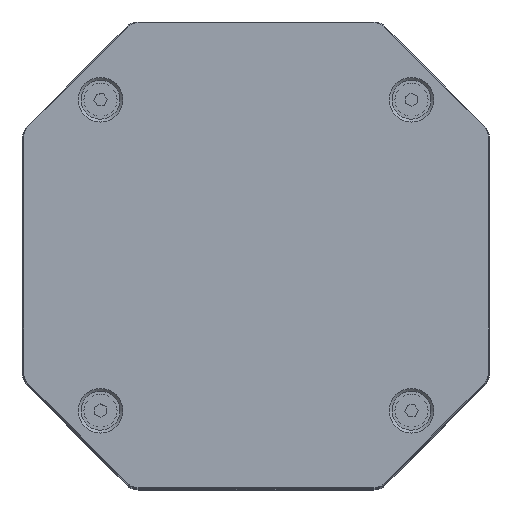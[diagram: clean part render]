
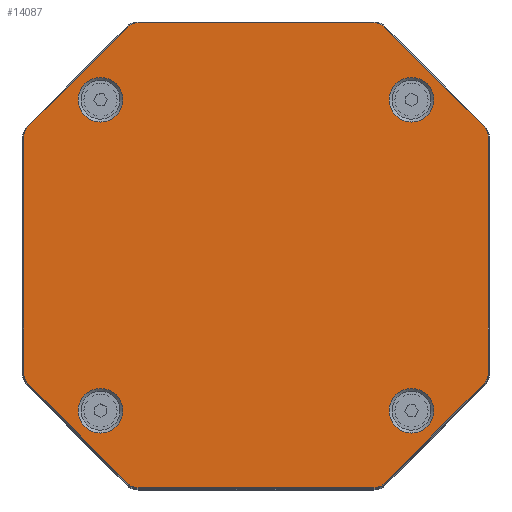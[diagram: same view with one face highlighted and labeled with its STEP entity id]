
A CAD part, top view. The second image highlights one B-rep face of the part: STEP entity #14087.
In plain terms, the highlighted planar face has unit normal (0, 0, 1) as drawn and (0, 1, 0) by its records, which use the part's own axes.
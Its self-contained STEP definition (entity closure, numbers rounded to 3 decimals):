
#858=FACE_BOUND('',#2424,.T.);
#859=FACE_BOUND('',#2425,.T.);
#860=FACE_BOUND('',#2426,.T.);
#861=FACE_BOUND('',#2427,.T.);
#1581=FACE_OUTER_BOUND('',#2423,.T.);
#2423=EDGE_LOOP('',(#12942,#12943,#12944,#12945,#12946,#12947,#12948,#12949,
#12950,#12951,#12952,#12953,#12954,#12955,#12956,#12957));
#2424=EDGE_LOOP('',(#12958));
#2425=EDGE_LOOP('',(#12959));
#2426=EDGE_LOOP('',(#12960));
#2427=EDGE_LOOP('',(#12961));
#3574=LINE('',#25526,#4760);
#3579=LINE('',#25539,#4765);
#3582=LINE('',#25550,#4768);
#3587=LINE('',#25563,#4773);
#3590=LINE('',#25573,#4776);
#3594=LINE('',#25582,#4780);
#3597=LINE('',#25590,#4783);
#3600=LINE('',#25598,#4786);
#4760=VECTOR('',#20061,10.);
#4765=VECTOR('',#20074,10.);
#4768=VECTOR('',#20085,10.);
#4773=VECTOR('',#20098,10.);
#4776=VECTOR('',#20109,10.);
#4780=VECTOR('',#20119,10.);
#4783=VECTOR('',#20128,10.);
#4786=VECTOR('',#20137,10.);
#5594=CIRCLE('',#15881,3.8);
#5596=CIRCLE('',#15885,3.8);
#5598=CIRCLE('',#15889,3.8);
#5600=CIRCLE('',#15893,3.8);
#5601=CIRCLE('',#15896,3.8);
#5602=CIRCLE('',#15899,3.8);
#5603=CIRCLE('',#15902,3.8);
#5604=CIRCLE('',#15905,3.8);
#5605=CIRCLE('',#15914,5.75);
#5606=CIRCLE('',#15915,5.75);
#5607=CIRCLE('',#15916,5.75);
#5608=CIRCLE('',#15917,5.75);
#6893=VERTEX_POINT('',#25523);
#6894=VERTEX_POINT('',#25525);
#6896=VERTEX_POINT('',#25531);
#6898=VERTEX_POINT('',#25537);
#6900=VERTEX_POINT('',#25543);
#6902=VERTEX_POINT('',#25548);
#6904=VERTEX_POINT('',#25555);
#6906=VERTEX_POINT('',#25561);
#6908=VERTEX_POINT('',#25567);
#6909=VERTEX_POINT('',#25571);
#6910=VERTEX_POINT('',#25576);
#6911=VERTEX_POINT('',#25580);
#6912=VERTEX_POINT('',#25584);
#6913=VERTEX_POINT('',#25588);
#6914=VERTEX_POINT('',#25592);
#6915=VERTEX_POINT('',#25596);
#6916=VERTEX_POINT('',#25616);
#6917=VERTEX_POINT('',#25618);
#6918=VERTEX_POINT('',#25620);
#6919=VERTEX_POINT('',#25622);
#8890=EDGE_CURVE('',#6893,#6894,#3574,.T.);
#8894=EDGE_CURVE('',#6896,#6893,#5594,.T.);
#8897=EDGE_CURVE('',#6898,#6896,#3579,.T.);
#8900=EDGE_CURVE('',#6900,#6898,#5596,.T.);
#8902=EDGE_CURVE('',#6902,#6900,#3582,.T.);
#8906=EDGE_CURVE('',#6904,#6902,#5598,.T.);
#8909=EDGE_CURVE('',#6906,#6904,#3587,.T.);
#8912=EDGE_CURVE('',#6908,#6906,#5600,.T.);
#8914=EDGE_CURVE('',#6909,#6908,#3590,.T.);
#8917=EDGE_CURVE('',#6910,#6909,#5601,.T.);
#8919=EDGE_CURVE('',#6911,#6910,#3594,.T.);
#8921=EDGE_CURVE('',#6912,#6911,#5602,.T.);
#8923=EDGE_CURVE('',#6913,#6912,#3597,.T.);
#8925=EDGE_CURVE('',#6914,#6913,#5603,.T.);
#8927=EDGE_CURVE('',#6915,#6914,#3600,.T.);
#8928=EDGE_CURVE('',#6894,#6915,#5604,.T.);
#8936=EDGE_CURVE('',#6916,#6916,#5605,.T.);
#8937=EDGE_CURVE('',#6917,#6917,#5606,.T.);
#8938=EDGE_CURVE('',#6918,#6918,#5607,.T.);
#8939=EDGE_CURVE('',#6919,#6919,#5608,.T.);
#12942=ORIENTED_EDGE('',*,*,#8890,.F.);
#12943=ORIENTED_EDGE('',*,*,#8894,.F.);
#12944=ORIENTED_EDGE('',*,*,#8897,.F.);
#12945=ORIENTED_EDGE('',*,*,#8900,.F.);
#12946=ORIENTED_EDGE('',*,*,#8902,.F.);
#12947=ORIENTED_EDGE('',*,*,#8906,.F.);
#12948=ORIENTED_EDGE('',*,*,#8909,.F.);
#12949=ORIENTED_EDGE('',*,*,#8912,.F.);
#12950=ORIENTED_EDGE('',*,*,#8914,.F.);
#12951=ORIENTED_EDGE('',*,*,#8917,.F.);
#12952=ORIENTED_EDGE('',*,*,#8919,.F.);
#12953=ORIENTED_EDGE('',*,*,#8921,.F.);
#12954=ORIENTED_EDGE('',*,*,#8923,.F.);
#12955=ORIENTED_EDGE('',*,*,#8925,.F.);
#12956=ORIENTED_EDGE('',*,*,#8927,.F.);
#12957=ORIENTED_EDGE('',*,*,#8928,.F.);
#12958=ORIENTED_EDGE('',*,*,#8936,.T.);
#12959=ORIENTED_EDGE('',*,*,#8937,.T.);
#12960=ORIENTED_EDGE('',*,*,#8938,.T.);
#12961=ORIENTED_EDGE('',*,*,#8939,.T.);
#13358=PLANE('',#15913);
#14087=ADVANCED_FACE('',(#1581,#858,#859,#860,#861),#13358,.T.);
#15881=AXIS2_PLACEMENT_3D('',#25533,#20068,#20069);
#15885=AXIS2_PLACEMENT_3D('',#25545,#20080,#20081);
#15889=AXIS2_PLACEMENT_3D('',#25557,#20092,#20093);
#15893=AXIS2_PLACEMENT_3D('',#25569,#20104,#20105);
#15896=AXIS2_PLACEMENT_3D('',#25578,#20114,#20115);
#15899=AXIS2_PLACEMENT_3D('',#25586,#20123,#20124);
#15902=AXIS2_PLACEMENT_3D('',#25594,#20132,#20133);
#15905=AXIS2_PLACEMENT_3D('',#25600,#20140,#20141);
#15913=AXIS2_PLACEMENT_3D('',#25615,#20163,#20164);
#15914=AXIS2_PLACEMENT_3D('',#25617,#20165,#20166);
#15915=AXIS2_PLACEMENT_3D('',#25619,#20167,#20168);
#15916=AXIS2_PLACEMENT_3D('',#25621,#20169,#20170);
#15917=AXIS2_PLACEMENT_3D('',#25623,#20171,#20172);
#20061=DIRECTION('',(0.,0.,-1.));
#20068=DIRECTION('center_axis',(0.,-1.,0.));
#20069=DIRECTION('ref_axis',(-0.924,0.,0.383));
#20074=DIRECTION('',(-0.707,0.,-0.707));
#20080=DIRECTION('center_axis',(0.,-1.,0.));
#20081=DIRECTION('ref_axis',(-0.383,0.,0.924));
#20085=DIRECTION('',(-1.,0.,0.));
#20092=DIRECTION('center_axis',(0.,-1.,0.));
#20093=DIRECTION('ref_axis',(0.383,0.,0.924));
#20098=DIRECTION('',(-0.707,0.,0.707));
#20104=DIRECTION('center_axis',(0.,-1.,0.));
#20105=DIRECTION('ref_axis',(0.924,0.,0.383));
#20109=DIRECTION('',(0.,0.,1.));
#20114=DIRECTION('center_axis',(0.,-1.,0.));
#20115=DIRECTION('ref_axis',(0.924,0.,-0.383));
#20119=DIRECTION('',(0.707,0.,0.707));
#20123=DIRECTION('center_axis',(0.,-1.,0.));
#20124=DIRECTION('ref_axis',(0.383,0.,-0.924));
#20128=DIRECTION('',(1.,0.,0.));
#20132=DIRECTION('center_axis',(0.,-1.,0.));
#20133=DIRECTION('ref_axis',(-0.383,0.,-0.924));
#20137=DIRECTION('',(0.707,0.,-0.707));
#20140=DIRECTION('center_axis',(0.,-1.,0.));
#20141=DIRECTION('ref_axis',(-0.924,0.,-0.383));
#20163=DIRECTION('center_axis',(0.,1.,0.));
#20164=DIRECTION('ref_axis',(0.,0.,1.));
#20165=DIRECTION('center_axis',(0.,-1.,0.));
#20166=DIRECTION('ref_axis',(1.,0.,0.));
#20167=DIRECTION('center_axis',(0.,-1.,0.));
#20168=DIRECTION('ref_axis',(1.,0.,0.));
#20169=DIRECTION('center_axis',(0.,-1.,0.));
#20170=DIRECTION('ref_axis',(1.,0.,0.));
#20171=DIRECTION('center_axis',(0.,-1.,0.));
#20172=DIRECTION('ref_axis',(1.,0.,0.));
#25523=CARTESIAN_POINT('',(-59.8,10.,30.343));
#25525=CARTESIAN_POINT('',(-59.8,10.,-30.343));
#25526=CARTESIAN_POINT('',(-59.8,10.,-30.));
#25531=CARTESIAN_POINT('',(-58.687,10.,33.03));
#25533=CARTESIAN_POINT('Origin',(-56.,10.,30.343));
#25537=CARTESIAN_POINT('',(-33.03,10.,58.687));
#25539=CARTESIAN_POINT('',(-45.859,10.,45.859));
#25543=CARTESIAN_POINT('',(-30.343,10.,59.8));
#25545=CARTESIAN_POINT('Origin',(-30.343,10.,56.));
#25548=CARTESIAN_POINT('',(30.343,10.,59.8));
#25550=CARTESIAN_POINT('',(-30.,10.,59.8));
#25555=CARTESIAN_POINT('',(33.03,10.,58.687));
#25557=CARTESIAN_POINT('Origin',(30.343,10.,56.));
#25561=CARTESIAN_POINT('',(58.687,10.,33.03));
#25563=CARTESIAN_POINT('',(45.859,10.,45.859));
#25567=CARTESIAN_POINT('',(59.8,10.,30.343));
#25569=CARTESIAN_POINT('Origin',(56.,10.,30.343));
#25571=CARTESIAN_POINT('',(59.8,10.,-30.343));
#25573=CARTESIAN_POINT('',(59.8,10.,30.));
#25576=CARTESIAN_POINT('',(58.687,10.,-33.03));
#25578=CARTESIAN_POINT('Origin',(56.,10.,-30.343));
#25580=CARTESIAN_POINT('',(33.03,10.,-58.687));
#25582=CARTESIAN_POINT('',(45.859,10.,-45.859));
#25584=CARTESIAN_POINT('',(30.343,10.,-59.8));
#25586=CARTESIAN_POINT('Origin',(30.343,10.,-56.));
#25588=CARTESIAN_POINT('',(-30.343,10.,-59.8));
#25590=CARTESIAN_POINT('',(30.,10.,-59.8));
#25592=CARTESIAN_POINT('',(-33.03,10.,-58.687));
#25594=CARTESIAN_POINT('Origin',(-30.343,10.,-56.));
#25596=CARTESIAN_POINT('',(-58.687,10.,-33.03));
#25598=CARTESIAN_POINT('',(-45.859,10.,-45.859));
#25600=CARTESIAN_POINT('Origin',(-56.,10.,-30.343));
#25615=CARTESIAN_POINT('Origin',(0.,10.,0.));
#25616=CARTESIAN_POINT('',(34.25,10.,-40.));
#25617=CARTESIAN_POINT('Origin',(40.,10.,-40.));
#25618=CARTESIAN_POINT('',(-45.75,10.,40.));
#25619=CARTESIAN_POINT('Origin',(-40.,10.,40.));
#25620=CARTESIAN_POINT('',(-45.75,10.,-40.));
#25621=CARTESIAN_POINT('Origin',(-40.,10.,-40.));
#25622=CARTESIAN_POINT('',(34.25,10.,40.));
#25623=CARTESIAN_POINT('Origin',(40.,10.,40.));
